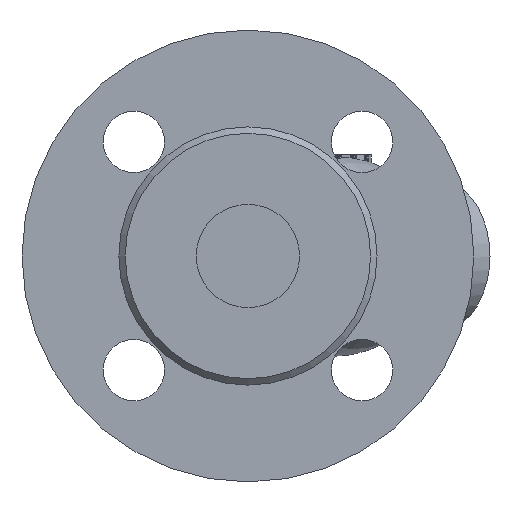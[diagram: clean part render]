
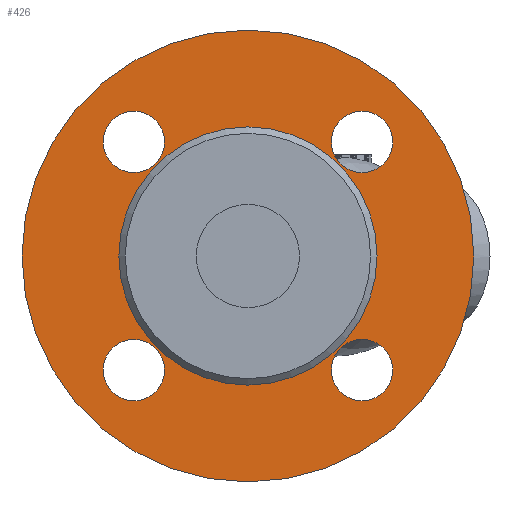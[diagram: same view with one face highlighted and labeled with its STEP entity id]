
A CAD part, left-side view. The second image highlights one B-rep face of the part: STEP entity #426.
In plain terms, the highlighted planar face has unit normal (-1, 0, 0).
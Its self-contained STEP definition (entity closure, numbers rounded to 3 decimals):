
#426=ADVANCED_FACE('',(#13929,#13931,#13933,#13935,#13937,#13939),#13941,.T.);
#13929=FACE_BOUND('',#13930,.T.);
#13930=EDGE_LOOP('',(#20708,#20709));
#13931=FACE_BOUND('',#13932,.T.);
#13932=EDGE_LOOP('',(#20710));
#13933=FACE_BOUND('',#13934,.T.);
#13934=EDGE_LOOP('',(#20711));
#13935=FACE_BOUND('',#13936,.T.);
#13936=EDGE_LOOP('',(#20712));
#13937=FACE_BOUND('',#13938,.T.);
#13938=EDGE_LOOP('',(#20713));
#13939=FACE_BOUND('',#13940,.T.);
#13940=EDGE_LOOP('',(#20714,#20715));
#13941=PLANE('',#13942);
#13942=AXIS2_PLACEMENT_3D('',#13943,#13944,#13945);
#13943=CARTESIAN_POINT('',(3026.035,-145.644,-9.));
#13944=DIRECTION('',(-1.,0.,0.));
#13945=DIRECTION('',(0.,0.,1.));
#20708=ORIENTED_EDGE('',*,*,#25694,.F.);
#20709=ORIENTED_EDGE('',*,*,#25695,.F.);
#20710=ORIENTED_EDGE('',*,*,#25683,.T.);
#20711=ORIENTED_EDGE('',*,*,#25685,.T.);
#20712=ORIENTED_EDGE('',*,*,#25687,.T.);
#20713=ORIENTED_EDGE('',*,*,#25681,.T.);
#20714=ORIENTED_EDGE('',*,*,#25693,.T.);
#20715=ORIENTED_EDGE('',*,*,#25692,.T.);
#25681=EDGE_CURVE('',#29080,#29080,#29081,.T.);
#25683=EDGE_CURVE('',#29084,#29084,#29085,.T.);
#25685=EDGE_CURVE('',#29088,#29088,#29089,.T.);
#25687=EDGE_CURVE('',#29092,#29092,#29093,.T.);
#25692=EDGE_CURVE('',#29102,#29103,#29104,.T.);
#25693=EDGE_CURVE('',#29103,#29102,#29105,.T.);
#25694=EDGE_CURVE('',#29106,#29107,#29108,.T.);
#25695=EDGE_CURVE('',#29107,#29106,#29109,.T.);
#29080=VERTEX_POINT('',#38448);
#29081=CIRCLE('',#38449,9.5);
#29084=VERTEX_POINT('',#38458);
#29085=CIRCLE('',#38459,9.5);
#29088=VERTEX_POINT('',#38468);
#29089=CIRCLE('',#38469,9.5);
#29092=VERTEX_POINT('',#38478);
#29093=CIRCLE('',#38479,9.5);
#29102=VERTEX_POINT('',#38503);
#29103=VERTEX_POINT('',#38504);
#29104=CIRCLE('',#38505,40.);
#29105=CIRCLE('',#38509,40.);
#29106=VERTEX_POINT('',#38513);
#29107=VERTEX_POINT('',#38514);
#29108=CIRCLE('',#38515,70.);
#29109=CIRCLE('',#38519,70.);
#38448=CARTESIAN_POINT('',(3026.035,-260.499,26.355));
#38449=AXIS2_PLACEMENT_3D('',#38450,#38451,#38452);
#38450=CARTESIAN_POINT('',(3026.035,-250.999,26.355));
#38451=DIRECTION('',(1.,0.,0.));
#38452=DIRECTION('',(0.,-1.,0.));
#38458=CARTESIAN_POINT('',(3026.035,-189.788,-44.355));
#38459=AXIS2_PLACEMENT_3D('',#38460,#38461,#38462);
#38460=CARTESIAN_POINT('',(3026.035,-180.288,-44.355));
#38461=DIRECTION('',(1.,0.,0.));
#38462=DIRECTION('',(0.,-1.,0.));
#38468=CARTESIAN_POINT('',(3026.035,-260.499,-44.355));
#38469=AXIS2_PLACEMENT_3D('',#38470,#38471,#38472);
#38470=CARTESIAN_POINT('',(3026.035,-250.999,-44.355));
#38471=DIRECTION('',(1.,0.,0.));
#38472=DIRECTION('',(0.,-1.,0.));
#38478=CARTESIAN_POINT('',(3026.035,-189.788,26.355));
#38479=AXIS2_PLACEMENT_3D('',#38480,#38481,#38482);
#38480=CARTESIAN_POINT('',(3026.035,-180.288,26.355));
#38481=DIRECTION('',(1.,0.,0.));
#38482=DIRECTION('',(0.,-1.,0.));
#38503=CARTESIAN_POINT('',(3026.035,-255.644,-9.));
#38504=CARTESIAN_POINT('',(3026.035,-175.644,-9.));
#38505=AXIS2_PLACEMENT_3D('',#38506,#38507,#38508);
#38506=CARTESIAN_POINT('',(3026.035,-215.644,-9.));
#38507=DIRECTION('',(1.,0.,0.));
#38508=DIRECTION('',(0.,-1.,0.));
#38509=AXIS2_PLACEMENT_3D('',#38510,#38511,#38512);
#38510=CARTESIAN_POINT('',(3026.035,-215.644,-9.));
#38511=DIRECTION('',(1.,0.,0.));
#38512=DIRECTION('',(0.,1.,0.));
#38513=CARTESIAN_POINT('',(3026.035,-285.644,-9.));
#38514=CARTESIAN_POINT('',(3026.035,-145.644,-9.));
#38515=AXIS2_PLACEMENT_3D('',#38516,#38517,#38518);
#38516=CARTESIAN_POINT('',(3026.035,-215.644,-9.));
#38517=DIRECTION('',(1.,0.,0.));
#38518=DIRECTION('',(0.,-1.,0.));
#38519=AXIS2_PLACEMENT_3D('',#38520,#38521,#38522);
#38520=CARTESIAN_POINT('',(3026.035,-215.644,-9.));
#38521=DIRECTION('',(1.,0.,0.));
#38522=DIRECTION('',(0.,1.,0.));
